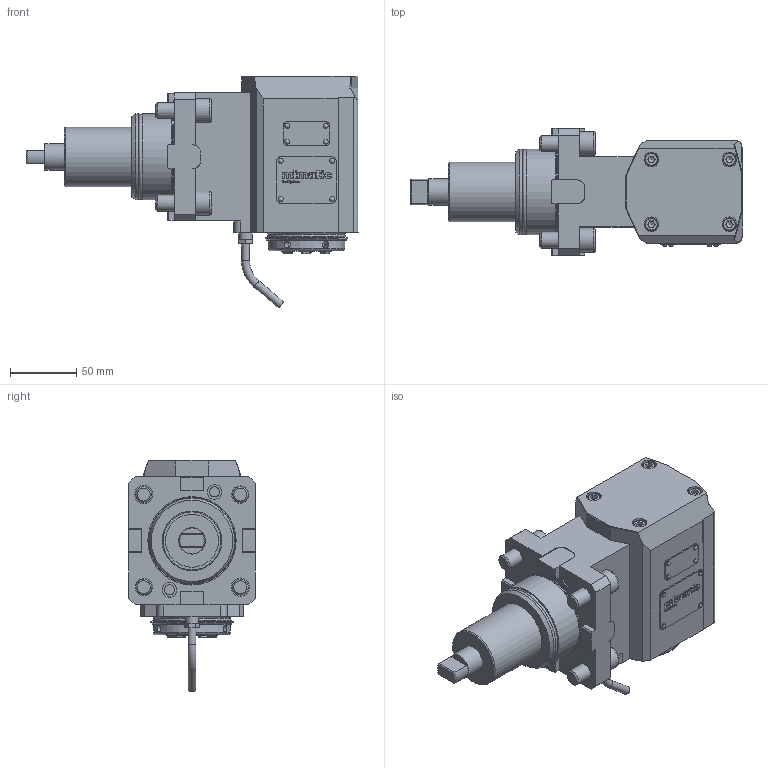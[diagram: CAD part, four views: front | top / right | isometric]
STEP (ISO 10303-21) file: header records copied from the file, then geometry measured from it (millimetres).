
FILE_DESCRIPTION(/* description */ (''),/* implementation_level */ '2;1');
FILE_NAME(/* name */ '192964',/* time_stamp */ '2020-05-25T15:56:52+02:00',/* author */ (''),/* organization */ (''),/* preprocessor_version */ 'ST-DEVELOPER v16.5',/* originating_system */ 'HiCAD 2017 2201.0 Build 268',/* authorisation */ '');
FILE_SCHEMA (('AUTOMOTIVE_DESIGN { 1 0 10303 214 1 1 1 1 }'));
Products named in the file (9): Root; A192964_AGW-BMT-C-65-ER32-E; GEWINDE; DIN 13-M14
Assembly tree (8 placements, depth 3):
  Root
    A192964_AGW-BMT-C-65-ER32-E
      GEWINDE
      GEWINDE
      GEWINDE
      GEWINDE
      GEWINDE
      DIN 13-M14
      DIN 13-M14
Bounding box: 251 x 96 x 175.17 mm (x, y, z)
Volume: 1319688.5 mm3; surface area: 128754.9 mm2
Topology: 8 solids, 16 shells, 877 faces, 2225 edges, 1448 vertices
Faces by surface type: plane 539, cylinder 222, cone 42, bspline 38, torus 28, sphere 8
Full cylindrical faces by diameter (mm): 2 x8, 2.2 x8, 4 x2, 5.1 x6, 6 x2, 6.8 x2, 7.65 x2, 8 x1, 9.853 x8, 10 x5, 11 x4, 11.01 x2, 11.1 x2, 12 x10, 13 x2, 14 x4, 18 x4, 20 x1, 23.5 x1, 27 x1, 38.4 x1, 40 x1, 40.501 x1, 45 x1, 55 x1, 58 x1, 60.8 x2, 62 x1, 64.5 x1, 64.9 x2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
Entity records: 55693 total; most frequent: CARTESIAN_POINT 12061, PRESENTATION_STYLE_ASSIGNMENT 4540, OVER_RIDING_STYLED_ITEM 4532, COLOUR_RGB 4031, DRAUGHTING_PRE_DEFINED_CURVE_FONT 4020, CURVE_STYLE 4020, ORIENTED_EDGE 4020, DIRECTION 4006
